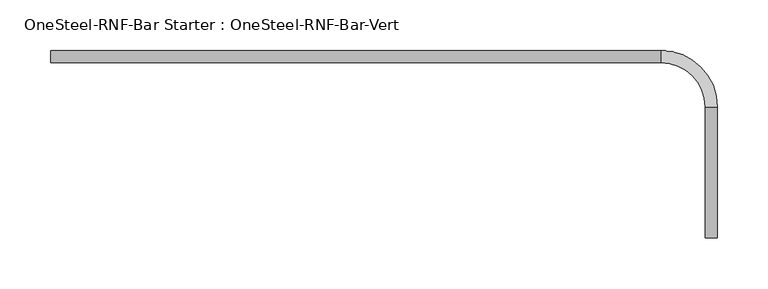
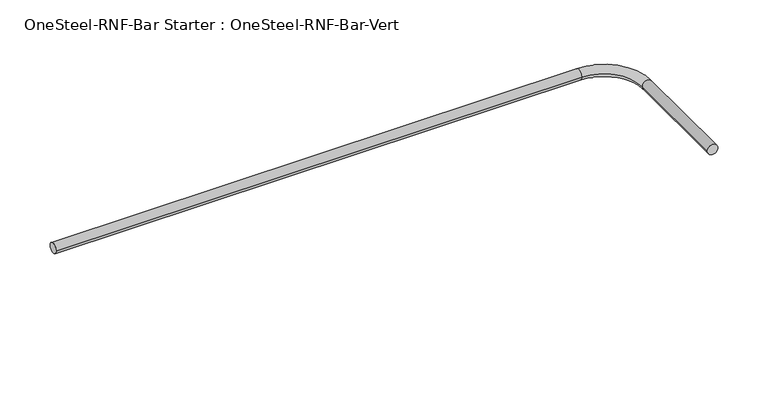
"""IFC4 building model written with IfcOpenShell, lengths in millimetres: proxy geometry, OneSteel-RNF-Bar Starter : OneSteel-RNF-Bar-Vert."""

from ifc_helpers import new_model, si_unit, point, frame, origin, place, context, project, spatial, circle_curve, ellipse_curve, trimmed, source, transform, mapped, element, save
from ifc_brep_helpers import plane_surface, cylinder_surface, revolved_surface, advanced_brep


def onesteel_rnf_bar_starter_onesteel_rnf_bar_vert_be2ae213(model_context):
    return source(origin(), model_context, "Body", "AdvancedBrep", [
        advanced_brep(
        [(0.0, 6.0, 0.0), (0.0, -6.0, 0.0), (660.0, -180.0, 0.0), (648.0, -180.0, 0.0), (604.0, -6.0, 0.0), (604.0, 6.0, 0.0), (648.0, -50.0, 0.0), (660.0, -50.0, 0.0)],
        [
            (0, 1, circle_curve(frame((0.0, 0.0, 0.0), z_axis=(-1.0, 0.0, 0.0), x_axis=(0.0, -1.0, 0.0)), 6.0)),
            (1, 0, circle_curve(frame((0.0, 0.0, 0.0), z_axis=(-1.0, 0.0, 0.0), x_axis=(0.0, -1.0, 0.0)), 6.0)),
            (2, 3, circle_curve(frame((654.0, -180.0, 0.0), z_axis=(0.0, -1.0, 0.0), x_axis=(-1.0, 0.0, 0.0)), 6.0)),
            (3, 2, circle_curve(frame((654.0, -180.0, 0.0), z_axis=(0.0, -1.0, 0.0), x_axis=(-1.0, 0.0, 0.0)), 6.0)),
            (1, 4),
            (4, 5, circle_curve(frame((604.0, 0.0, 0.0), z_axis=(-1.0, 0.0, 0.0), x_axis=(0.0, -1.0, 0.0)), 6.0)),
            (5, 0),
            (5, 4, circle_curve(frame((604.0, 0.0, 0.0), z_axis=(-1.0, 0.0, 0.0), x_axis=(0.0, -1.0, 0.0)), 6.0)),
            (6, 7, circle_curve(frame((654.0, -50.0, 0.0), z_axis=(0.0, 1.0, 0.0), x_axis=(-1.0, 0.0, 0.0)), 6.0)),
            (7, 5, circle_curve(frame((604.0, -50.0, 0.0), z_axis=(0.0, 0.0, 1.0), x_axis=(0.0, 1.0, 0.0)), 56.0)),
            (4, 6, circle_curve(frame((604.0, -50.0, 0.0), z_axis=(0.0, 0.0, -1.0), x_axis=(0.0, 1.0, 0.0)), 44.0)),
            (7, 6, circle_curve(frame((654.0, -50.0, 0.0), z_axis=(0.0, 1.0, 0.0), x_axis=(-1.0, 0.0, 0.0)), 6.0)),
            (6, 3),
            (2, 7),
        ],
        [
            plane_surface(frame((0.0, 0.0, 0.0), z_axis=(-1.0, 0.0, 0.0), x_axis=(0.0, 0.0, 1.0))),
            plane_surface(frame((654.0, -180.0, 0.0), z_axis=(0.0, -1.0, 0.0), x_axis=(0.0, 0.0, 1.0))),
            cylinder_surface(frame((0.0, 0.0, 0.0), z_axis=(-1.0, 0.0, 0.0), x_axis=(0.0, -1.0, 0.0)), 6.0),
            revolved_surface(trimmed(ellipse_curve(frame((604.0, 0.0, 0.0), z_axis=(1.0, 0.0, 0.0), x_axis=(0.0, -1.0, 0.0)), 6.0, 6.0), [point((604.0, 6.0, 0.0))], [point((604.0, -6.0, 0.0))], True, "CARTESIAN"), (604.0, -50.0, 0.0), (0.0, 0.0, 1.0)),
            revolved_surface(trimmed(ellipse_curve(frame((604.0, 0.0, 0.0), z_axis=(1.0, 0.0, 0.0), x_axis=(0.0, -1.0, 0.0)), 6.0, 6.0), [point((604.0, -6.0, 0.0))], [point((604.0, 6.0, 0.0))], True, "CARTESIAN"), (604.0, -50.0, 0.0), (0.0, 0.0, 1.0)),
            cylinder_surface(frame((654.0, -50.0, 0.0), z_axis=(0.0, 1.0, 0.0), x_axis=(-1.0, 0.0, 0.0)), 6.0),
        ],
        [
            (0, [[1, 2]]),
            (1, [[3, 4]]),
            (2, [[5, 6, 7, -2]]),
            (2, [[-7, 8, -5, -1]]),
            (3, [[9, 10, -6, 11]]),
            (4, [[12, -11, -8, -10]]),
            (5, [[13, -3, 14, -9]]),
            (5, [[-14, -4, -13, -12]]),
        ],
    ),
    ])


if __name__ == "__main__":
    model = new_model("IFC4")
    model_context = context("Model", 3, world=origin())
    ifc_project = project(units=[si_unit("LENGTHUNIT", "METRE", prefix="MILLI")], contexts=[model_context])
    site = spatial("IfcSite", under=ifc_project)
    building = spatial("IfcBuilding", under=site)
    placement = place(None, origin())
    onesteel_rnf_bar_starter_onesteel_rnf_bar_vert_shape = onesteel_rnf_bar_starter_onesteel_rnf_bar_vert_be2ae213(model_context)
    element("IfcBuildingElementProxy", 1, Name="OneSteel-RNF-Bar Starter : OneSteel-RNF-Bar-Vert", ObjectType="OneSteel-RNF-Bar Starter : OneSteel-RNF-Bar-Vert", at=placement, inside=building, context=model_context, shape_type="MappedRepresentation", body=[
        mapped(onesteel_rnf_bar_starter_onesteel_rnf_bar_vert_shape, transform((0.0, 0.0, 0.0), x_axis=(1.0, 0.0, 0.0), y_axis=(0.0, 1.0, 0.0), z_axis=(0.0, 0.0, 1.0))),
    ])
    save(model, "model.ifc")
